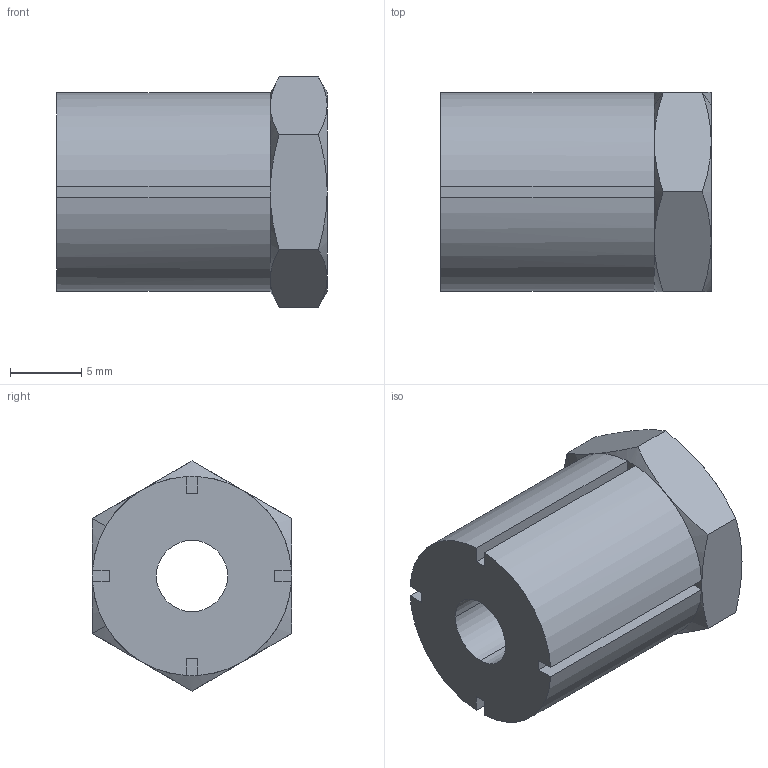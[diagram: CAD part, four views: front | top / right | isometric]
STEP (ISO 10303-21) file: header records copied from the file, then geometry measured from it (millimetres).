
FILE_DESCRIPTION((''),'2;1');
FILE_NAME('C:\WIXROYD\Positioning\3840\3840W005.stp','2003-01-09T15:38:32',('Administrator'),(''),'Autodesk Inventor (tm) 5.0','Autodesk Inventor (tm) 5.0','');
FILE_SCHEMA(('CONFIG_CONTROL_DESIGN'));
Length unit declared in the file: millimetre
Products named in the file (1): 3840W005
Bounding box: 19 x 14 x 16.17 mm (x, y, z)
Volume: 2551.6 mm3; surface area: 1579.1 mm2
Topology: 1 solids, 1 shells, 48 faces, 114 edges, 68 vertices
Faces by surface type: plane 24, cone 16, cylinder 8
Entity records: 1437 total; most frequent: CARTESIAN_POINT 279, ORIENTED_EDGE 228, DIRECTION 224, EDGE_CURVE 114, AXIS2_PLACEMENT_3D 85, VERTEX_POINT 68, VECTOR 54, LINE 54
